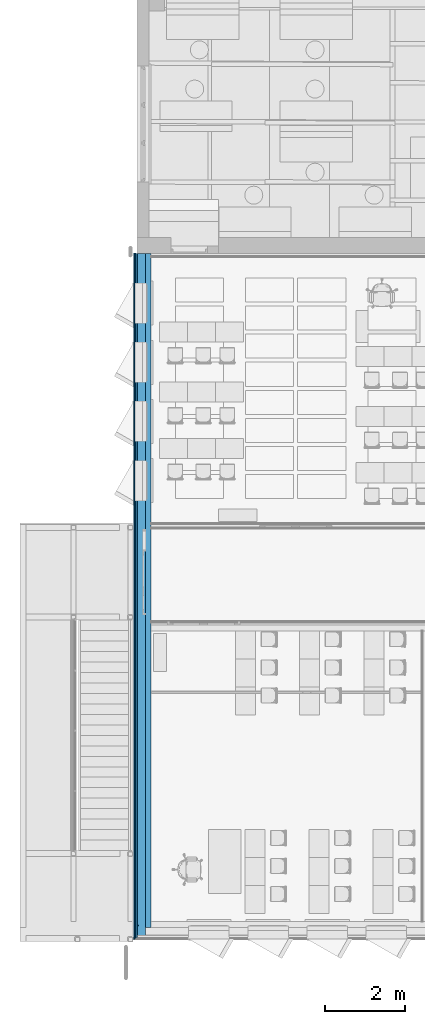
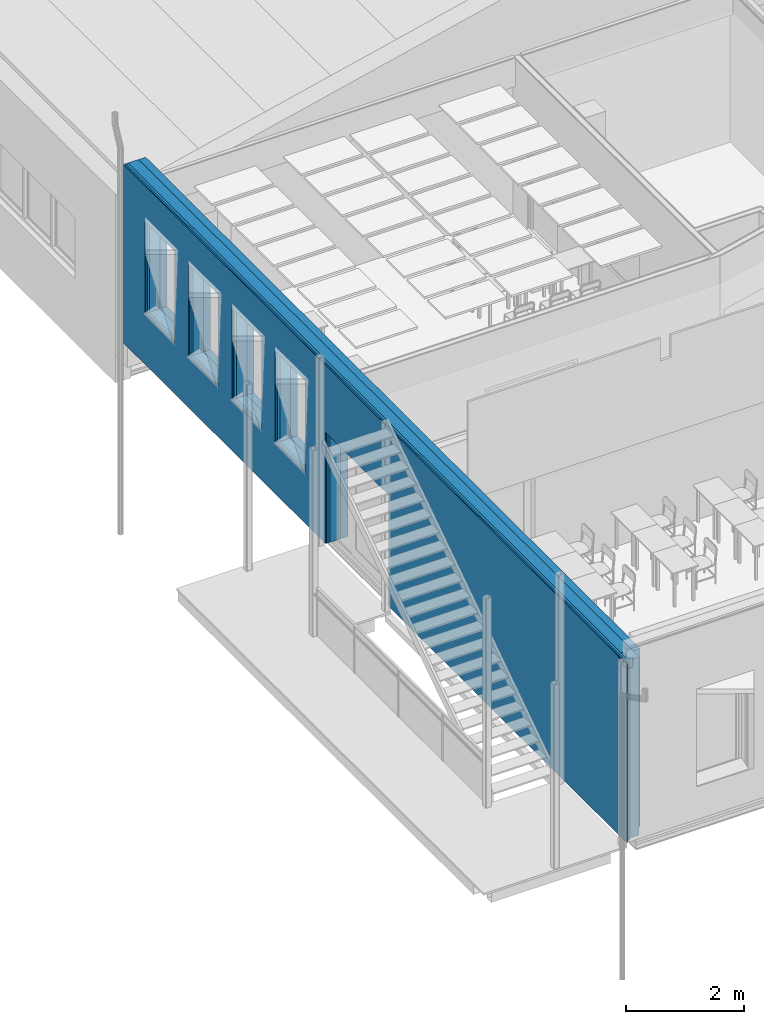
# One storey, part 45 of 153: 5 building element parts, 5 openings, 1 element without a shape of its own.
"""IFC2X3 building model written with IfcOpenShell, lengths in millimetres."""

from ifc_helpers import new_model, entity, si_unit, converted_unit, derived_unit, money_unit, direction, frame, origin_with_axes, place, context, subcontext, project, spatial, faceted_brep, material, type_object, element, aggregate, save


model = new_model("IFC2X3")

# Units and contexts
model_context = context("Model", 3, precision=0.01, world=origin_with_axes(), true_north=direction((0.0, 1.0)))
body_context = subcontext(model_context, "Body", "Model", "MODEL_VIEW")
ifc_project = project(units=[si_unit("LENGTHUNIT", "METRE", prefix="MILLI"), si_unit("AREAUNIT", "SQUARE_METRE"), si_unit("VOLUMEUNIT", "CUBIC_METRE"), converted_unit("PLANEANGLEUNIT", "DEGREE", entity("IfcPlaneAngleMeasure", 0.0174532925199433), si_unit("PLANEANGLEUNIT", "RADIAN"), dimensions=[0, 0, 0, 0, 0, 0, 0]), money_unit("EUR"), converted_unit("TIMEUNIT", "Year", entity("IfcTimeMeasure", 31557600.0), si_unit("TIMEUNIT", "SECOND"), dimensions=[0, 0, 1, 0, 0, 0, 0]), si_unit("MASSUNIT", "GRAM", prefix="KILO"), si_unit("THERMODYNAMICTEMPERATUREUNIT", "DEGREE_CELSIUS"), si_unit("LUMINOUSINTENSITYUNIT", "LUMEN"), si_unit("ENERGYUNIT", "JOULE", prefix="MEGA"), derived_unit("THERMALCONDUCTANCEUNIT", [(si_unit("POWERUNIT", "WATT"), 1), (si_unit("LENGTHUNIT", "METRE"), -1), (si_unit("THERMODYNAMICTEMPERATUREUNIT", "KELVIN"), -1)]), derived_unit("SPECIFICHEATCAPACITYUNIT", [(si_unit("ENERGYUNIT", "JOULE"), 1), (si_unit("MASSUNIT", "GRAM", prefix="KILO"), -1), (si_unit("THERMODYNAMICTEMPERATUREUNIT", "KELVIN"), -1)]), derived_unit("MASSDENSITYUNIT", [(si_unit("MASSUNIT", "GRAM", prefix="KILO"), 1), (si_unit("VOLUMEUNIT", "CUBIC_METRE"), -1)])], contexts=[model_context])

# Site, building, storey
site_placement = place(None, frame((0.0, 0.0, 8650.0), z_axis=(0.0, 0.0, 1.0), x_axis=(1.0, 0.0, 0.0)))
site = spatial("IfcSite", under=ifc_project, at=site_placement, Name="43301:001:0844", CompositionType="ELEMENT")
building_placement = place(site_placement, origin_with_axes())
building = spatial("IfcBuilding", under=site, at=building_placement, Name="Kuressaare Ametikooli tuulikute mehaanikute õppekorpus", CompositionType="ELEMENT")
storey_placement = place(building_placement, frame((0.0, 0.0, 4100.0), z_axis=(0.0, 0.0, 1.0), x_axis=(1.0, 0.0, 0.0)))
storey = spatial("IfcBuildingStorey", under=building, at=storey_placement, Name="2.korrus", CompositionType="ELEMENT", Elevation=4100.0)

# Wall, openings, building element parts
wall_type = type_object("IfcWallType", Name="VS1 437", PredefinedType="NOTDEFINED")
wall_placement = place(storey_placement, frame((88318.22664518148, 25783.06892395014, 0.0), z_axis=(0.0, 0.0, 1.0), x_axis=(0.0, -1.0, 0.0)))
wall = element("IfcWall", 1, at=wall_placement, inside=storey, type_object=wall_type, Name="Sisesein")
opening_1_placement = place(wall_placement, frame((1239.000000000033, 0.0, 1050.0), z_axis=(0.0, 0.0, 1.0), x_axis=(1.0, 0.0, 0.0)))
element("IfcOpeningElement", 2, at=opening_1_placement, cuts=wall, Name="A-1g", context=body_context, shape_type="Brep", body=[
    faceted_brep([(504.999999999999, -219.9999999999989, 0.0), (504.999999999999, -219.9999999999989, 1910.0), (504.999999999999, -438.0000000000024, 1910.0), (504.999999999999, -438.0000000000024, 0.0), (504.999999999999, 1.000000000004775, 0.0), (504.999999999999, 1.000000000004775, 1910.0), (-504.999999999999, -219.9999999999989, 1910.0), (-504.999999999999, -438.0000000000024, 1910.0), (-504.999999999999, 1.000000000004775, 1910.0), (-504.999999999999, -438.0000000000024, 0.0), (-504.999999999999, -219.9999999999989, 0.0), (-504.999999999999, 1.000000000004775, 0.0)], [[[0, 1, 2, 3]], [[1, 0, 4, 5]], [[6, 7, 2, 1, 5, 8]], [[7, 9, 3, 2]], [[0, 3, 9, 10, 11, 4]], [[5, 4, 11, 8]], [[6, 10, 9, 7]], [[10, 6, 8, 11]]]),
])
opening_2_placement = place(wall_placement, frame((2714.000000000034, 0.0, 1050.0), z_axis=(0.0, 0.0, 1.0), x_axis=(1.0, 0.0, 0.0)))
element("IfcOpeningElement", 3, at=opening_2_placement, cuts=wall, Name="A-1g", context=body_context, shape_type="Brep", body=[
    faceted_brep([(504.999999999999, -219.9999999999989, 0.0), (504.999999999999, -219.9999999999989, 1910.0), (504.999999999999, -438.0000000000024, 1910.0), (504.999999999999, -438.0000000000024, 0.0), (504.999999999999, 1.000000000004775, 0.0), (504.999999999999, 1.000000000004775, 1910.0), (-504.999999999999, -219.9999999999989, 1910.0), (-504.999999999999, -438.0000000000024, 1910.0), (-504.999999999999, 1.000000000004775, 1910.0), (-504.999999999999, -438.0000000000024, 0.0), (-504.999999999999, -219.9999999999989, 0.0), (-504.999999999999, 1.000000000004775, 0.0)], [[[0, 1, 2, 3]], [[1, 0, 4, 5]], [[6, 7, 2, 1, 5, 8]], [[7, 9, 3, 2]], [[0, 3, 9, 10, 11, 4]], [[5, 4, 11, 8]], [[6, 10, 9, 7]], [[10, 6, 8, 11]]]),
])
opening_3_placement = place(wall_placement, frame((4189.000000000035, 0.0, 1050.0), z_axis=(0.0, 0.0, 1.0), x_axis=(1.0, 0.0, 0.0)))
element("IfcOpeningElement", 4, at=opening_3_placement, cuts=wall, Name="A-1g", context=body_context, shape_type="Brep", body=[
    faceted_brep([(504.999999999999, -219.9999999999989, 0.0), (504.999999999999, -219.9999999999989, 1910.0), (504.999999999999, -438.0000000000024, 1910.0), (504.999999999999, -438.0000000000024, 0.0), (504.999999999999, 1.000000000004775, 0.0), (504.999999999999, 1.000000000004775, 1910.0), (-504.999999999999, -219.9999999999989, 1910.0), (-504.999999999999, -438.0000000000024, 1910.0), (-504.999999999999, 1.000000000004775, 1910.0), (-504.999999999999, -438.0000000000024, 0.0), (-504.999999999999, -219.9999999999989, 0.0), (-504.999999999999, 1.000000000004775, 0.0)], [[[0, 1, 2, 3]], [[1, 0, 4, 5]], [[6, 7, 2, 1, 5, 8]], [[7, 9, 3, 2]], [[0, 3, 9, 10, 11, 4]], [[5, 4, 11, 8]], [[6, 10, 9, 7]], [[10, 6, 8, 11]]]),
])
opening_4_placement = place(wall_placement, frame((7939.231546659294, 0.0, 0.0), z_axis=(0.0, 0.0, 1.0), x_axis=(1.0, 0.0, 0.0)))
element("IfcOpeningElement", 5, at=opening_4_placement, cuts=wall, Name="AVU5+10+5,EI30", context=body_context, shape_type="Brep", body=[
    faceted_brep([(1070.0, -219.9999999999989, 2310.0), (-1070.0, -219.9999999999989, 2310.0), (-1070.0, -438.0000000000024, 2310.0), (1070.0, -438.0000000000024, 2310.0), (1070.0, 1.000000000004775, 2310.0), (-1070.0, 1.000000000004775, 2310.0), (-1070.0, -219.9999999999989, 0.0), (-1070.0, -438.0000000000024, 0.0), (1070.0, -438.0000000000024, 0.0), (1070.0, -219.9999999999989, 0.0), (1070.0, 1.000000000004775, 0.0), (-1070.0, 1.000000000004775, 0.0)], [[[0, 1, 2, 3]], [[1, 0, 4, 5]], [[1, 6, 7, 2]], [[2, 7, 8, 3]], [[9, 0, 3, 8]], [[0, 9, 10, 4]], [[4, 10, 11, 5]], [[6, 1, 5, 11]], [[6, 9, 8, 7]], [[9, 6, 11, 10]]]),
])
opening_5_placement = place(wall_placement, frame((5664.000000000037, 0.0, 1050.0), z_axis=(0.0, 0.0, 1.0), x_axis=(1.0, 0.0, 0.0)))
element("IfcOpeningElement", 6, at=opening_5_placement, cuts=wall, Name="AL-1g,EI30", context=body_context, shape_type="Brep", body=[
    faceted_brep([(504.999999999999, -219.9999999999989, 0.0), (504.999999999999, -219.9999999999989, 1910.0), (504.999999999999, -438.0000000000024, 1910.0), (504.999999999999, -438.0000000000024, 0.0), (504.999999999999, 1.000000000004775, 0.0), (504.999999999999, 1.000000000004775, 1910.0), (-504.999999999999, -219.9999999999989, 1910.0), (-504.999999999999, -438.0000000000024, 1910.0), (-504.999999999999, 1.000000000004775, 1910.0), (-504.999999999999, -438.0000000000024, 0.0), (-504.999999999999, -219.9999999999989, 0.0), (-504.999999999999, 1.000000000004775, 0.0)], [[[0, 1, 2, 3]], [[1, 0, 4, 5]], [[6, 7, 2, 1, 5, 8]], [[7, 9, 3, 2]], [[0, 3, 9, 10, 11, 4]], [[5, 4, 11, 8]], [[6, 10, 9, 7]], [[10, 6, 8, 11]]]),
])
ifc_material_1 = material(Name="Air Space - Frame")
building_element_part_1_placement = place(wall_placement, origin_with_axes())
building_element_part_1 = element("IfcBuildingElementPart", 7, at=building_element_part_1_placement, material=ifc_material_1, Name="Air Space - Frame", context=body_context, shape_type="Brep", body=[
    faceted_brep([(17048.23043340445, -344.9999999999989, 3623.254391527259), (16760.57111703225, -344.9999999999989, 3699.999999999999), (17048.23043340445, -344.9999999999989, 3699.999999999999), (16760.57111703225, -388.9999999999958, 3699.999999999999), (17048.23043340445, -388.9999999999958, 3623.254391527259), (17048.23043340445, -388.9999999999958, 3699.999999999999)], [[[0, 1, 2]], [[3, 1, 0, 4]], [[1, 3, 5, 2]], [[4, 0, 2, 5]], [[3, 4, 5]]]),
    faceted_brep([(9009.231546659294, -344.9999999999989, 0.0), (9009.231546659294, -344.9999999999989, 2310.0), (6869.231546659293, -344.9999999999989, 2310.0), (6869.231546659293, -344.9999999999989, 0.0), (0.0, -344.9999999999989, 0.0), (0.0, -344.9999999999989, 3699.999999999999), (16737.29518238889, -344.9999999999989, 3699.999999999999), (17048.23043340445, -344.9999999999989, 3617.044525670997), (17048.23043340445, -344.9999999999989, 0.0), (1744.000000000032, -344.9999999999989, 1050.0), (1744.000000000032, -344.9999999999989, 2960.0), (734.0000000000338, -344.9999999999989, 2960.0), (734.0000000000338, -344.9999999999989, 1050.0), (2209.000000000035, -344.9999999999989, 1050.0), (3219.000000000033, -344.9999999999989, 1050.0), (3219.000000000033, -344.9999999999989, 2960.0), (2209.000000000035, -344.9999999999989, 2960.0), (3684.000000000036, -344.9999999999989, 2960.0), (3684.000000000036, -344.9999999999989, 1050.0), (4694.000000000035, -344.9999999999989, 1050.0), (4694.000000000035, -344.9999999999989, 2960.0), (6169.000000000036, -344.9999999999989, 2960.0), (5159.000000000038, -344.9999999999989, 2960.0), (5159.000000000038, -344.9999999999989, 1050.0), (6169.000000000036, -344.9999999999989, 1050.0), (9009.231546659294, -388.9999999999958, 0.0), (9009.231546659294, -388.9999999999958, 2310.0), (6869.231546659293, -388.9999999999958, 2310.0), (6869.231546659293, -388.9999999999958, 0.0), (0.0, -388.9999999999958, 0.0), (0.0, -388.9999999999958, 3699.999999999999), (16737.29518238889, -388.9999999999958, 3699.999999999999), (17048.23043340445, -388.9999999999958, 3617.044525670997), (17048.23043340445, -388.9999999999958, 0.0), (1744.000000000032, -388.9999999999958, 1050.0), (1744.000000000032, -388.9999999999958, 2960.0), (734.0000000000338, -388.9999999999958, 2960.0), (734.0000000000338, -388.9999999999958, 1050.0), (3219.000000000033, -388.9999999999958, 1050.0), (2209.000000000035, -388.9999999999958, 1050.0), (3219.000000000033, -388.9999999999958, 2960.0), (2209.000000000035, -388.9999999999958, 2960.0), (3684.000000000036, -388.9999999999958, 2960.0), (3684.000000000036, -388.9999999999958, 1050.0), (4694.000000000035, -388.9999999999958, 1050.0), (4694.000000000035, -388.9999999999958, 2960.0), (6169.000000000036, -388.9999999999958, 2960.0), (5159.000000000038, -388.9999999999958, 2960.0), (5159.000000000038, -388.9999999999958, 1050.0), (6169.000000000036, -388.9999999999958, 1050.0)], [[[0, 1, 2, 3, 4, 5, 6, 7, 8], [9, 10, 11, 12], [13, 14, 15, 16], [17, 18, 19, 20], [21, 22, 23, 24]], [[1, 0, 25, 26]], [[2, 1, 26, 27]], [[3, 2, 27, 28]], [[3, 28, 29, 4]], [[4, 29, 30, 5]], [[6, 5, 30, 31]], [[6, 31, 32, 7]], [[32, 33, 8, 7]], [[25, 0, 8, 33]], [[10, 9, 34, 35]], [[11, 10, 35, 36]], [[12, 11, 36, 37]], [[9, 12, 37, 34]], [[38, 14, 13, 39]], [[40, 15, 14, 38]], [[41, 16, 15, 40]], [[39, 13, 16, 41]], [[42, 43, 18, 17]], [[43, 44, 19, 18]], [[44, 45, 20, 19]], [[45, 42, 17, 20]], [[21, 46, 47, 22]], [[22, 47, 48, 23]], [[23, 48, 49, 24]], [[24, 49, 46, 21]], [[26, 25, 33, 32, 31, 30, 29, 28, 27], [34, 37, 36, 35], [40, 38, 39, 41], [42, 45, 44, 43], [48, 47, 46, 49]]]),
])
ifc_material_2 = material(Name="Soojustus - Mineraalvill jäik")
building_element_part_2_placement = place(wall_placement, origin_with_axes())
building_element_part_2 = element("IfcBuildingElementPart", 8, at=building_element_part_2_placement, material=ifc_material_2, Name="Soojustus - Mineraalvill jäik", context=body_context, shape_type="Brep", body=[
    faceted_brep([(16760.57111703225, -324.4992574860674, 3699.999999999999), (16760.57111703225, -344.9999999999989, 3699.999999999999), (17004.23043340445, -344.9999999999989, 3699.999999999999), (17004.23043340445, -318.4992574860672, 3699.999999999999), (16783.8470516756, -318.4992574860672, 3699.999999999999), (16767.38848045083, -320.2566167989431, 3699.999999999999), (17004.23043340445, -324.4992574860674, 3634.993301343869), (17004.23043340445, -344.9999999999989, 3634.993301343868), (17004.23043340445, -318.4992574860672, 3641.203167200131), (17004.23043340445, -320.2566167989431, 3636.812128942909)], [[[0, 1, 2, 3, 4, 5]], [[1, 0, 6, 7]], [[1, 7, 2]], [[8, 3, 2, 7, 6, 9]], [[4, 3, 8]], [[5, 4, 8, 9]], [[0, 5, 9, 6]]]),
    faceted_brep([(9009.231546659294, -140.0000000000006, 0.0), (9009.231546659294, -140.0000000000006, 2310.0), (6869.231546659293, -140.0000000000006, 2310.0), (6869.231546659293, -140.0000000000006, 0.0), (0.0, -140.0000000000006, 0.0), (0.0, -140.0000000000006, 3699.999999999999), (17004.23043340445, -140.0000000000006, 3699.999999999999), (17004.23043340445, -140.0000000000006, 0.0), (1744.000000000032, -140.0000000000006, 1050.0), (1744.000000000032, -140.0000000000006, 2960.0), (734.0000000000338, -140.0000000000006, 2960.0), (734.0000000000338, -140.0000000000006, 1050.0), (2209.000000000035, -140.0000000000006, 2960.0), (2209.000000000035, -140.0000000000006, 1050.0), (3219.000000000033, -140.0000000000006, 1050.0), (3219.000000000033, -140.0000000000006, 2960.0), (4694.000000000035, -140.0000000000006, 1050.0), (4694.000000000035, -140.0000000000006, 2960.0), (3684.000000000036, -140.0000000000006, 2960.0), (3684.000000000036, -140.0000000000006, 1050.0), (5159.000000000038, -140.0000000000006, 2960.0), (5159.000000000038, -140.0000000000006, 1050.0), (6169.000000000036, -140.0000000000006, 1050.0), (6169.000000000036, -140.0000000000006, 2960.0), (9009.231546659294, -219.9999999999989, 0.0), (9009.231546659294, -219.9999999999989, 2310.0), (6869.231546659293, -219.9999999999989, 2310.0), (6869.231546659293, -219.9999999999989, 0.0), (6869.231546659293, -344.9999999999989, 0.0), (0.0, -344.9999999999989, 0.0), (0.0, -344.9999999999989, 3699.999999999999), (16783.8470516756, -312.499257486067, 3699.999999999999), (17004.23043340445, -312.499257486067, 3699.999999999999), (16737.29518238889, -344.9999999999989, 3699.999999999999), (16737.29518238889, -324.4992574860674, 3699.999999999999), (16750.92990922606, -316.013976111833, 3699.999999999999), (17004.23043340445, -344.9999999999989, 0.0), (17004.23043340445, -312.499257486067, 3641.203167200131), (17004.23043340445, -316.013976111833, 3632.421090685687), (17004.23043340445, -324.4992574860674, 3628.783435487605), (17004.23043340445, -344.9999999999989, 3628.783435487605), (9009.231546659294, -344.9999999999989, 0.0), (1744.000000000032, -344.9999999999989, 1050.0), (1744.000000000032, -344.9999999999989, 2960.0), (734.0000000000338, -344.9999999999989, 2960.0), (734.0000000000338, -344.9999999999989, 1050.0), (2209.000000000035, -344.9999999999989, 2960.0), (2209.000000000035, -344.9999999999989, 1050.0), (3219.000000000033, -344.9999999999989, 1050.0), (3219.000000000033, -344.9999999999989, 2960.0), (4694.000000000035, -344.9999999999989, 1050.0), (4694.000000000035, -344.9999999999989, 2960.0), (3684.000000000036, -344.9999999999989, 2960.0), (3684.000000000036, -344.9999999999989, 1050.0), (5159.000000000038, -344.9999999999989, 2960.0), (5159.000000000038, -344.9999999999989, 1050.0), (6169.000000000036, -344.9999999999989, 1050.0), (6169.000000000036, -344.9999999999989, 2960.0), (9009.231546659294, -344.9999999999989, 2310.0), (6869.231546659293, -344.9999999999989, 2310.0)], [[[0, 1, 2, 3, 4, 5, 6, 7], [8, 9, 10, 11], [12, 13, 14, 15], [16, 17, 18, 19], [20, 21, 22, 23]], [[1, 0, 24, 25]], [[2, 1, 25, 26]], [[3, 2, 26, 27]], [[3, 27, 28, 29, 4]], [[29, 30, 5, 4]], [[31, 32, 6, 5, 30, 33, 34, 35]], [[36, 7, 6, 32, 37, 38, 39, 40]], [[24, 0, 7, 36, 41]], [[9, 8, 42, 43]], [[44, 10, 9, 43]], [[45, 11, 10, 44]], [[8, 11, 45, 42]], [[12, 46, 47, 13]], [[47, 48, 14, 13]], [[48, 49, 15, 14]], [[15, 49, 46, 12]], [[17, 16, 50, 51]], [[52, 18, 17, 51]], [[53, 19, 18, 52]], [[16, 19, 53, 50]], [[20, 54, 55, 21]], [[55, 56, 22, 21]], [[56, 57, 23, 22]], [[23, 57, 54, 20]], [[25, 24, 41, 58]], [[26, 25, 58, 59]], [[27, 26, 59, 28]], [[29, 28, 59, 58, 41, 36, 40, 33, 30], [45, 44, 43, 42], [49, 48, 47, 46], [53, 52, 51, 50], [57, 56, 55, 54]], [[32, 31, 37]], [[40, 39, 34, 33]], [[39, 38, 35, 34]], [[38, 37, 31, 35]]]),
])
ifc_material_3 = material(Name="Puit - CLT")
building_element_part_3_placement = place(wall_placement, origin_with_axes())
building_element_part_3 = element("IfcBuildingElementPart", 9, at=building_element_part_3_placement, material=ifc_material_3, Name="Puit - CLT", context=body_context, shape_type="Brep", body=[
    faceted_brep([(9009.231546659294, 0.0, 0.0), (9009.231546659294, 0.0, 2310.0), (6869.231546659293, 0.0, 2310.0), (6869.231546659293, 0.0, 0.0), (0.0, 0.0, 0.0), (0.0, 0.0, 3699.999999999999), (9269.020895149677, 0.0, 3699.999999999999), (9269.020895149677, 0.0, 3589.999999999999), (9409.020895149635, 0.0, 3589.999999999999), (9409.020895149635, 0.0, 3699.999999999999), (16799.23043340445, 0.0, 3699.999999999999), (16799.23043340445, 0.0, 0.0), (1744.000000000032, 0.0, 1050.0), (1744.000000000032, 0.0, 2960.0), (734.0000000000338, 0.0, 2960.0), (734.0000000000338, 0.0, 1050.0), (2209.000000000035, 0.0, 1050.0), (3219.000000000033, 0.0, 1050.0), (3219.000000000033, 0.0, 2960.0), (2209.000000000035, 0.0, 2960.0), (3684.000000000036, 0.0, 2960.0), (3684.000000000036, 0.0, 1050.0), (4694.000000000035, 0.0, 1050.0), (4694.000000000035, 0.0, 2960.0), (6169.000000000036, 0.0, 2960.0), (5159.000000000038, 0.0, 2960.0), (5159.000000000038, 0.0, 1050.0), (6169.000000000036, 0.0, 1050.0), (9009.231546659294, -140.0000000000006, 0.0), (9009.231546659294, -140.0000000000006, 2310.0), (6869.231546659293, -140.0000000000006, 2310.0), (6869.231546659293, -140.0000000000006, 0.0), (0.0, -140.0000000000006, 0.0), (0.0, -140.0000000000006, 3699.999999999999), (9269.020895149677, -0.08418102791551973, 3699.999999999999), (16799.23043340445, -140.0000000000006, 3699.999999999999), (9409.020895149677, -0.08418102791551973, 3699.999999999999), (9269.020895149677, -0.08418102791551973, 3589.999999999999), (9409.020895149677, -0.08418102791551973, 3589.999999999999), (16799.23043340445, -140.0000000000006, 0.0), (1744.000000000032, -140.0000000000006, 1050.0), (1744.000000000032, -140.0000000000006, 2960.0), (734.0000000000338, -140.0000000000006, 2960.0), (734.0000000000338, -140.0000000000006, 1050.0), (3219.000000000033, -140.0000000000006, 1050.0), (2209.000000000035, -140.0000000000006, 1050.0), (3219.000000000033, -140.0000000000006, 2960.0), (2209.000000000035, -140.0000000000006, 2960.0), (3684.000000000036, -140.0000000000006, 2960.0), (3684.000000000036, -140.0000000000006, 1050.0), (4694.000000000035, -140.0000000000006, 1050.0), (4694.000000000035, -140.0000000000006, 2960.0), (6169.000000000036, -140.0000000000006, 2960.0), (5159.000000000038, -140.0000000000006, 2960.0), (5159.000000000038, -140.0000000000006, 1050.0), (6169.000000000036, -140.0000000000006, 1050.0)], [[[0, 1, 2, 3, 4, 5, 6, 7, 8, 9, 10, 11], [12, 13, 14, 15], [16, 17, 18, 19], [20, 21, 22, 23], [24, 25, 26, 27]], [[1, 0, 28, 29]], [[2, 1, 29, 30]], [[3, 2, 30, 31]], [[3, 31, 32, 4]], [[4, 32, 33, 5]], [[34, 6, 5, 33, 35, 10, 9, 36]], [[6, 34, 37, 7]], [[7, 37, 38, 8]], [[9, 8, 38, 36]], [[11, 10, 35, 39]], [[28, 0, 11, 39]], [[13, 12, 40, 41]], [[14, 13, 41, 42]], [[15, 14, 42, 43]], [[12, 15, 43, 40]], [[44, 17, 16, 45]], [[46, 18, 17, 44]], [[47, 19, 18, 46]], [[45, 16, 19, 47]], [[48, 49, 21, 20]], [[49, 50, 22, 21]], [[50, 51, 23, 22]], [[51, 48, 20, 23]], [[24, 52, 53, 25]], [[25, 53, 54, 26]], [[26, 54, 55, 27]], [[27, 55, 52, 24]], [[29, 28, 39, 35, 33, 32, 31, 30], [40, 43, 42, 41], [46, 44, 45, 47], [48, 51, 50, 49], [54, 53, 52, 55]], [[36, 38, 37, 34]]]),
])
ifc_material_4 = material(Name="Puit - voodrilaud")
building_element_part_4_placement = place(wall_placement, origin_with_axes())
building_element_part_4 = element("IfcBuildingElementPart", 10, at=building_element_part_4_placement, material=ifc_material_4, Name="Puit - voodrilaud", context=body_context, shape_type="Brep", body=[
    faceted_brep([(17096.23043340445, -417.0000000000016, 3610.448308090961), (16760.57111703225, -417.0000000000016, 3699.999999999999), (17096.23043340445, -417.0000000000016, 3699.999999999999), (16760.57111703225, -436.9999999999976, 3699.999999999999), (17096.23043340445, -436.9999999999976, 3610.448308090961), (17096.23043340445, -436.9999999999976, 3699.999999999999)], [[[0, 1, 2]], [[3, 1, 0, 4]], [[1, 3, 5, 2]], [[4, 0, 2, 5]], [[3, 4, 5]]]),
    faceted_brep([(9009.231546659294, -417.0000000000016, 0.0), (9009.231546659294, -417.0000000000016, 2310.0), (6869.231546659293, -417.0000000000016, 2310.0), (6869.231546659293, -417.0000000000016, 0.0), (0.0, -417.0000000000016, 0.0), (0.0, -417.0000000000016, 3699.999999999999), (16737.29518238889, -417.0000000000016, 3699.999999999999), (17096.23043340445, -417.0000000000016, 3604.238442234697), (17096.23043340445, -417.0000000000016, 0.0), (1744.000000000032, -417.0000000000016, 1050.0), (1744.000000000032, -417.0000000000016, 2960.0), (734.0000000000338, -417.0000000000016, 2960.0), (734.0000000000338, -417.0000000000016, 1050.0), (2209.000000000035, -417.0000000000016, 1050.0), (3219.000000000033, -417.0000000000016, 1050.0), (3219.000000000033, -417.0000000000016, 2960.0), (2209.000000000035, -417.0000000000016, 2960.0), (3684.000000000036, -417.0000000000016, 2960.0), (3684.000000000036, -417.0000000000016, 1050.0), (4694.000000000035, -417.0000000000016, 1050.0), (4694.000000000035, -417.0000000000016, 2960.0), (6169.000000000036, -417.0000000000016, 2960.0), (5159.000000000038, -417.0000000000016, 2960.0), (5159.000000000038, -417.0000000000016, 1050.0), (6169.000000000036, -417.0000000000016, 1050.0), (9009.231546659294, -436.9999999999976, 0.0), (9009.231546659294, -436.9999999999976, 2310.0), (6869.231546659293, -436.9999999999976, 2310.0), (6869.231546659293, -436.9999999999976, 0.0), (0.0, -436.9999999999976, 0.0), (0.0, -436.9999999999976, 3699.999999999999), (16737.29518238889, -436.9999999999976, 3699.999999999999), (17096.23043340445, -436.9999999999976, 3604.238442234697), (17096.23043340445, -436.9999999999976, 0.0), (1744.000000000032, -436.9999999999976, 1050.0), (1744.000000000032, -436.9999999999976, 2960.0), (734.0000000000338, -436.9999999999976, 2960.0), (734.0000000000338, -436.9999999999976, 1050.0), (3219.000000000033, -436.9999999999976, 1050.0), (2209.000000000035, -436.9999999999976, 1050.0), (3219.000000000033, -436.9999999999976, 2960.0), (2209.000000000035, -436.9999999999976, 2960.0), (3684.000000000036, -436.9999999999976, 2960.0), (3684.000000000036, -436.9999999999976, 1050.0), (4694.000000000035, -436.9999999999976, 1050.0), (4694.000000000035, -436.9999999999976, 2960.0), (6169.000000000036, -436.9999999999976, 2960.0), (5159.000000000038, -436.9999999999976, 2960.0), (5159.000000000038, -436.9999999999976, 1050.0), (6169.000000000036, -436.9999999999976, 1050.0)], [[[0, 1, 2, 3, 4, 5, 6, 7, 8], [9, 10, 11, 12], [13, 14, 15, 16], [17, 18, 19, 20], [21, 22, 23, 24]], [[1, 0, 25, 26]], [[2, 1, 26, 27]], [[3, 2, 27, 28]], [[3, 28, 29, 4]], [[4, 29, 30, 5]], [[6, 5, 30, 31]], [[6, 31, 32, 7]], [[32, 33, 8, 7]], [[25, 0, 8, 33]], [[10, 9, 34, 35]], [[11, 10, 35, 36]], [[12, 11, 36, 37]], [[9, 12, 37, 34]], [[38, 14, 13, 39]], [[40, 15, 14, 38]], [[41, 16, 15, 40]], [[39, 13, 16, 41]], [[42, 43, 18, 17]], [[43, 44, 19, 18]], [[44, 45, 20, 19]], [[45, 42, 17, 20]], [[21, 46, 47, 22]], [[22, 47, 48, 23]], [[23, 48, 49, 24]], [[24, 49, 46, 21]], [[26, 25, 33, 32, 31, 30, 29, 28, 27], [34, 37, 36, 35], [40, 38, 39, 41], [42, 45, 44, 43], [48, 47, 46, 49]]]),
])
building_element_part_5_placement = place(wall_placement, origin_with_axes())
building_element_part_5 = element("IfcBuildingElementPart", 11, at=building_element_part_5_placement, material=ifc_material_1, Name="Air Space - Frame", context=body_context, shape_type="Brep", body=[
    faceted_brep([(17076.23043340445, -388.9999999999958, 3615.784176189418), (16760.57111703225, -388.9999999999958, 3699.999999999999), (17076.23043340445, -388.9999999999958, 3699.999999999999), (16760.57111703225, -417.0000000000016, 3699.999999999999), (17076.23043340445, -417.0000000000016, 3615.784176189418), (17076.23043340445, -417.0000000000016, 3699.999999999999)], [[[0, 1, 2]], [[3, 1, 0, 4]], [[1, 3, 5, 2]], [[4, 0, 2, 5]], [[3, 4, 5]]]),
    faceted_brep([(9009.231546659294, -388.9999999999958, 0.0), (9009.231546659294, -388.9999999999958, 2310.0), (6869.231546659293, -388.9999999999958, 2310.0), (6869.231546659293, -388.9999999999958, 0.0), (0.0, -388.9999999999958, 0.0), (0.0, -388.9999999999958, 3699.999999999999), (16737.29518238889, -388.9999999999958, 3699.999999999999), (17076.23043340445, -388.9999999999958, 3609.574310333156), (17076.23043340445, -388.9999999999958, 0.0), (1744.000000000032, -388.9999999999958, 1050.0), (1744.000000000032, -388.9999999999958, 2960.0), (734.0000000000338, -388.9999999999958, 2960.0), (734.0000000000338, -388.9999999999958, 1050.0), (2209.000000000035, -388.9999999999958, 1050.0), (3219.000000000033, -388.9999999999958, 1050.0), (3219.000000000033, -388.9999999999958, 2960.0), (2209.000000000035, -388.9999999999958, 2960.0), (3684.000000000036, -388.9999999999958, 2960.0), (3684.000000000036, -388.9999999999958, 1050.0), (4694.000000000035, -388.9999999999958, 1050.0), (4694.000000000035, -388.9999999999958, 2960.0), (6169.000000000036, -388.9999999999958, 2960.0), (5159.000000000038, -388.9999999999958, 2960.0), (5159.000000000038, -388.9999999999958, 1050.0), (6169.000000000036, -388.9999999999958, 1050.0), (9009.231546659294, -417.0000000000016, 0.0), (9009.231546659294, -417.0000000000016, 2310.0), (6869.231546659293, -417.0000000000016, 2310.0), (6869.231546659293, -417.0000000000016, 0.0), (0.0, -417.0000000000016, 0.0), (0.0, -417.0000000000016, 3699.999999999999), (16737.29518238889, -417.0000000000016, 3699.999999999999), (17076.23043340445, -417.0000000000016, 3609.574310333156), (17076.23043340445, -417.0000000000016, 0.0), (1744.000000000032, -417.0000000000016, 1050.0), (1744.000000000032, -417.0000000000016, 2960.0), (734.0000000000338, -417.0000000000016, 2960.0), (734.0000000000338, -417.0000000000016, 1050.0), (3219.000000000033, -417.0000000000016, 1050.0), (2209.000000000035, -417.0000000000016, 1050.0), (3219.000000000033, -417.0000000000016, 2960.0), (2209.000000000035, -417.0000000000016, 2960.0), (3684.000000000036, -417.0000000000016, 2960.0), (3684.000000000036, -417.0000000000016, 1050.0), (4694.000000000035, -417.0000000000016, 1050.0), (4694.000000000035, -417.0000000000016, 2960.0), (6169.000000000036, -417.0000000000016, 2960.0), (5159.000000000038, -417.0000000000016, 2960.0), (5159.000000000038, -417.0000000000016, 1050.0), (6169.000000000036, -417.0000000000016, 1050.0)], [[[0, 1, 2, 3, 4, 5, 6, 7, 8], [9, 10, 11, 12], [13, 14, 15, 16], [17, 18, 19, 20], [21, 22, 23, 24]], [[1, 0, 25, 26]], [[2, 1, 26, 27]], [[3, 2, 27, 28]], [[3, 28, 29, 4]], [[4, 29, 30, 5]], [[6, 5, 30, 31]], [[6, 31, 32, 7]], [[32, 33, 8, 7]], [[25, 0, 8, 33]], [[10, 9, 34, 35]], [[11, 10, 35, 36]], [[12, 11, 36, 37]], [[9, 12, 37, 34]], [[38, 14, 13, 39]], [[40, 15, 14, 38]], [[41, 16, 15, 40]], [[39, 13, 16, 41]], [[42, 43, 18, 17]], [[43, 44, 19, 18]], [[44, 45, 20, 19]], [[45, 42, 17, 20]], [[21, 46, 47, 22]], [[22, 47, 48, 23]], [[23, 48, 49, 24]], [[24, 49, 46, 21]], [[26, 25, 33, 32, 31, 30, 29, 28, 27], [34, 37, 36, 35], [40, 38, 39, 41], [42, 45, 44, 43], [48, 47, 46, 49]]]),
])
aggregate(wall, [building_element_part_1, building_element_part_2, building_element_part_3, building_element_part_4, building_element_part_5])

save(model, "model.ifc")
